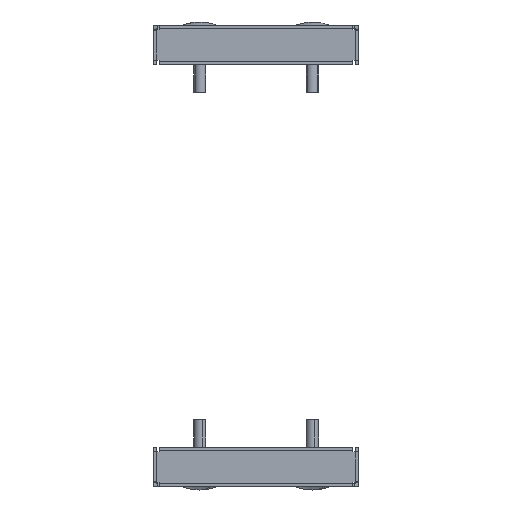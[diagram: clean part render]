
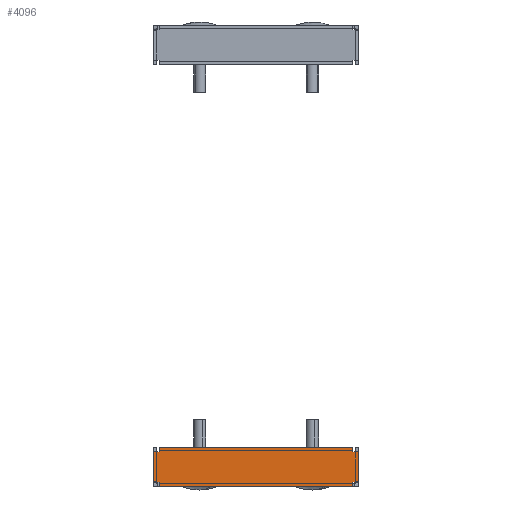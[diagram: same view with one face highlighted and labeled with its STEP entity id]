
A CAD part, left-side view. The second image highlights one B-rep face of the part: STEP entity #4096.
In plain terms, the highlighted planar face has unit normal (-1, 0, 0).
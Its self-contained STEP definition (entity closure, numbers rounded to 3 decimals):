
#35 = DIRECTION ( 'NONE',  ( 0., 0., -1. ) ) ;
#174 = VERTEX_POINT ( 'NONE', #6989 ) ;
#272 = CARTESIAN_POINT ( 'NONE',  ( -499.5, -49.649, 0.758 ) ) ;
#277 = EDGE_CURVE ( 'NONE', #6298, #8418, #7141, .T. ) ;
#292 = EDGE_CURVE ( 'NONE', #2844, #4921, #2566, .T. ) ;
#332 = DIRECTION ( 'NONE',  ( 0., -1., 0. ) ) ;
#370 = CARTESIAN_POINT ( 'NONE',  ( -499.5, 47.9, 0.6 ) ) ;
#377 = CARTESIAN_POINT ( 'NONE',  ( -499.5, -48.599, 0.674 ) ) ;
#811 = DIRECTION ( 'NONE',  ( 0., -1., 0. ) ) ;
#836 = VECTOR ( 'NONE', #6655, 1000. ) ;
#876 = ORIENTED_EDGE ( 'NONE', *, *, #9875, .F. ) ;
#940 = LINE ( 'NONE', #2506, #4409 ) ;
#974 = ORIENTED_EDGE ( 'NONE', *, *, #8722, .F. ) ;
#1060 = CARTESIAN_POINT ( 'NONE',  ( -499.5, -47.3, 15.4 ) ) ;
#1148 = CARTESIAN_POINT ( 'NONE',  ( -499.5, -49.299, 0.734 ) ) ;
#1152 = CARTESIAN_POINT ( 'NONE',  ( -499.5, 47.9, 0.6 ) ) ;
#1369 = LINE ( 'NONE', #1416, #5909 ) ;
#1416 = CARTESIAN_POINT ( 'NONE',  ( -499.5, 0., 15.4 ) ) ;
#1471 = EDGE_CURVE ( 'NONE', #2863, #9821, #7010, .T. ) ;
#1521 = EDGE_CURVE ( 'NONE', #6890, #9547, #940, .T. ) ;
#1587 = LINE ( 'NONE', #4660, #5690 ) ;
#1599 = CARTESIAN_POINT ( 'NONE',  ( -499.5, 47.3, 0.6 ) ) ;
#1698 = VECTOR ( 'NONE', #1764, 1000. ) ;
#1715 = FACE_OUTER_BOUND ( 'NONE', #3470, .T. ) ;
#1764 = DIRECTION ( 'NONE',  ( 0., 0., 1. ) ) ;
#1769 = CARTESIAN_POINT ( 'NONE',  ( -499.5, -47.9, 15.4 ) ) ;
#1871 = ORIENTED_EDGE ( 'NONE', *, *, #8228, .F. ) ;
#1898 = ORIENTED_EDGE ( 'NONE', *, *, #4675, .T. ) ;
#1937 = CARTESIAN_POINT ( 'NONE',  ( -499.5, -50., 0. ) ) ;
#2046 = ORIENTED_EDGE ( 'NONE', *, *, #6057, .T. ) ;
#2138 = VECTOR ( 'NONE', #811, 1000. ) ;
#2249 = CARTESIAN_POINT ( 'NONE',  ( -499.5, 47.3, 15.4 ) ) ;
#2329 = CARTESIAN_POINT ( 'NONE',  ( -499.5, -47.3, 17.5 ) ) ;
#2484 = ORIENTED_EDGE ( 'NONE', *, *, #6380, .T. ) ;
#2497 = CARTESIAN_POINT ( 'NONE',  ( -499.5, 47.3, 0. ) ) ;
#2506 = CARTESIAN_POINT ( 'NONE',  ( -499.5, 47.9, 15.4 ) ) ;
#2508 = VECTOR ( 'NONE', #2914, 1000. ) ;
#2566 = LINE ( 'NONE', #2668, #9885 ) ;
#2668 = CARTESIAN_POINT ( 'NONE',  ( -499.5, -47.9, 0.6 ) ) ;
#2767 = VERTEX_POINT ( 'NONE', #3064 ) ;
#2844 = VERTEX_POINT ( 'NONE', #8851 ) ;
#2863 = VERTEX_POINT ( 'NONE', #9592 ) ;
#2914 = DIRECTION ( 'NONE',  ( 0., 0., -1. ) ) ;
#3020 = VECTOR ( 'NONE', #8836, 1000. ) ;
#3033 = VERTEX_POINT ( 'NONE', #7579 ) ;
#3064 = CARTESIAN_POINT ( 'NONE',  ( -499.5, -47.3, -1.5 ) ) ;
#3119 = DIRECTION ( 'NONE',  ( 1., 0., 0. ) ) ;
#3300 = LINE ( 'NONE', #2497, #7196 ) ;
#3446 = ORIENTED_EDGE ( 'NONE', *, *, #8236, .F. ) ;
#3470 = EDGE_LOOP ( 'NONE', ( #9226, #3642, #1871, #7291, #6518, #6919, #2484, #9433, #6690, #8220, #2046, #876, #7443, #1898, #3446, #974 ) ) ;
#3537 = EDGE_CURVE ( 'NONE', #4561, #3033, #9078, .T. ) ;
#3583 = VECTOR ( 'NONE', #8021, 1000. ) ;
#3635 = CARTESIAN_POINT ( 'NONE',  ( -499.5, 0., 17.5 ) ) ;
#3642 = ORIENTED_EDGE ( 'NONE', *, *, #277, .T. ) ;
#3674 = CARTESIAN_POINT ( 'NONE',  ( -499.5, -47.3, 15.4 ) ) ;
#3735 = LINE ( 'NONE', #5348, #3758 ) ;
#3758 = VECTOR ( 'NONE', #9921, 1000. ) ;
#3787 = LINE ( 'NONE', #9871, #2138 ) ;
#3857 = CARTESIAN_POINT ( 'NONE',  ( -499.5, 47.9, 15.4 ) ) ;
#4063 = CARTESIAN_POINT ( 'NONE',  ( -499.5, 50., 0.777 ) ) ;
#4096 = ADVANCED_FACE ( 'NONE', ( #1715 ), #4780, .F. ) ;
#4347 = VERTEX_POINT ( 'NONE', #9485 ) ;
#4364 = LINE ( 'NONE', #9523, #3020 ) ;
#4400 = LINE ( 'NONE', #1937, #3583 ) ;
#4409 = VECTOR ( 'NONE', #8699, 1000. ) ;
#4561 = VERTEX_POINT ( 'NONE', #1599 ) ;
#4660 = CARTESIAN_POINT ( 'NONE',  ( -499.5, 47.9, 15.4 ) ) ;
#4675 = EDGE_CURVE ( 'NONE', #2844, #174, #9758, .T. ) ;
#4716 = DIRECTION ( 'NONE',  ( 0., 0., 1. ) ) ;
#4780 = PLANE ( 'NONE',  #6165 ) ;
#4864 = CARTESIAN_POINT ( 'NONE',  ( -499.5, -47.9, 0.6 ) ) ;
#4921 = VERTEX_POINT ( 'NONE', #5127 ) ;
#5032 = LINE ( 'NONE', #8896, #9853 ) ;
#5127 = CARTESIAN_POINT ( 'NONE',  ( -499.5, -47.3, 0.6 ) ) ;
#5348 = CARTESIAN_POINT ( 'NONE',  ( -499.5, -47.9, 15.4 ) ) ;
#5389 = CARTESIAN_POINT ( 'NONE',  ( -499.5, 47.3, 17.5 ) ) ;
#5627 = CARTESIAN_POINT ( 'NONE',  ( -499.5, 48.599, 0.674 ) ) ;
#5690 = VECTOR ( 'NONE', #7713, 1000. ) ;
#5881 = EDGE_CURVE ( 'NONE', #8525, #6298, #3735, .T. ) ;
#5909 = VECTOR ( 'NONE', #9008, 1000. ) ;
#6057 = EDGE_CURVE ( 'NONE', #3033, #2767, #3787, .T. ) ;
#6165 = AXIS2_PLACEMENT_3D ( 'NONE', #7844, #3119, #35 ) ;
#6264 = VECTOR ( 'NONE', #7615, 1000. ) ;
#6298 = VERTEX_POINT ( 'NONE', #3674 ) ;
#6364 = VERTEX_POINT ( 'NONE', #5389 ) ;
#6380 = EDGE_CURVE ( 'NONE', #9265, #2863, #7645, .T. ) ;
#6422 = CARTESIAN_POINT ( 'NONE',  ( -499.5, 49.299, 0.734 ) ) ;
#6483 = DIRECTION ( 'NONE',  ( 0., 1., 0. ) ) ;
#6518 = ORIENTED_EDGE ( 'NONE', *, *, #1521, .F. ) ;
#6528 = CARTESIAN_POINT ( 'NONE',  ( -499.5, 49.649, 0.758 ) ) ;
#6655 = DIRECTION ( 'NONE',  ( 0., -1., 0. ) ) ;
#6690 = ORIENTED_EDGE ( 'NONE', *, *, #7602, .T. ) ;
#6743 = CARTESIAN_POINT ( 'NONE',  ( -499.5, 50., 0. ) ) ;
#6890 = VERTEX_POINT ( 'NONE', #3857 ) ;
#6919 = ORIENTED_EDGE ( 'NONE', *, *, #7317, .T. ) ;
#6989 = CARTESIAN_POINT ( 'NONE',  ( -499.5, -50., 0.777 ) ) ;
#7010 = B_SPLINE_CURVE_WITH_KNOTS ( 'NONE', 3,
 ( #4063, #6528, #6422, #5627, #7881, #1152 ),
 .UNSPECIFIED., .F., .F.,
 ( 4, 2, 4 ),
 ( 0.006, 0.007, 0.008 ),
 .UNSPECIFIED. ) ;
#7103 = CARTESIAN_POINT ( 'NONE',  ( -499.5, 50., 15.4 ) ) ;
#7141 = LINE ( 'NONE', #1060, #1698 ) ;
#7196 = VECTOR ( 'NONE', #4716, 1000. ) ;
#7291 = ORIENTED_EDGE ( 'NONE', *, *, #9635, .F. ) ;
#7317 = EDGE_CURVE ( 'NONE', #6890, #9265, #1587, .T. ) ;
#7443 = ORIENTED_EDGE ( 'NONE', *, *, #292, .F. ) ;
#7579 = CARTESIAN_POINT ( 'NONE',  ( -499.5, 47.3, -1.5 ) ) ;
#7602 = EDGE_CURVE ( 'NONE', #9821, #4561, #5032, .T. ) ;
#7615 = DIRECTION ( 'NONE',  ( 0., 0., -1. ) ) ;
#7645 = LINE ( 'NONE', #6743, #2508 ) ;
#7713 = DIRECTION ( 'NONE',  ( 0., 1., 0. ) ) ;
#7844 = CARTESIAN_POINT ( 'NONE',  ( -499.5, 0., 0. ) ) ;
#7881 = CARTESIAN_POINT ( 'NONE',  ( -499.5, 48.249, 0.637 ) ) ;
#8021 = DIRECTION ( 'NONE',  ( 0., 0., -1. ) ) ;
#8220 = ORIENTED_EDGE ( 'NONE', *, *, #3537, .T. ) ;
#8228 = EDGE_CURVE ( 'NONE', #6364, #8418, #8773, .T. ) ;
#8236 = EDGE_CURVE ( 'NONE', #4347, #174, #4400, .T. ) ;
#8418 = VERTEX_POINT ( 'NONE', #2329 ) ;
#8525 = VERTEX_POINT ( 'NONE', #1769 ) ;
#8699 = DIRECTION ( 'NONE',  ( 0., -1., 0. ) ) ;
#8722 = EDGE_CURVE ( 'NONE', #8525, #4347, #1369, .T. ) ;
#8773 = LINE ( 'NONE', #3635, #836 ) ;
#8794 = CARTESIAN_POINT ( 'NONE',  ( -499.5, -48.249, 0.637 ) ) ;
#8836 = DIRECTION ( 'NONE',  ( 0., 0., -1. ) ) ;
#8851 = CARTESIAN_POINT ( 'NONE',  ( -499.5, -47.9, 0.6 ) ) ;
#8896 = CARTESIAN_POINT ( 'NONE',  ( -499.5, 47.9, 0.6 ) ) ;
#9008 = DIRECTION ( 'NONE',  ( 0., -1., 0. ) ) ;
#9078 = LINE ( 'NONE', #9220, #6264 ) ;
#9220 = CARTESIAN_POINT ( 'NONE',  ( -499.5, 47.3, 0.6 ) ) ;
#9226 = ORIENTED_EDGE ( 'NONE', *, *, #5881, .T. ) ;
#9265 = VERTEX_POINT ( 'NONE', #7103 ) ;
#9433 = ORIENTED_EDGE ( 'NONE', *, *, #1471, .T. ) ;
#9485 = CARTESIAN_POINT ( 'NONE',  ( -499.5, -50., 15.4 ) ) ;
#9523 = CARTESIAN_POINT ( 'NONE',  ( -499.5, -47.3, 0. ) ) ;
#9547 = VERTEX_POINT ( 'NONE', #2249 ) ;
#9583 = CARTESIAN_POINT ( 'NONE',  ( -499.5, -50., 0.777 ) ) ;
#9592 = CARTESIAN_POINT ( 'NONE',  ( -499.5, 50., 0.777 ) ) ;
#9635 = EDGE_CURVE ( 'NONE', #9547, #6364, #3300, .T. ) ;
#9758 = B_SPLINE_CURVE_WITH_KNOTS ( 'NONE', 3,
 ( #4864, #8794, #377, #1148, #272, #9583 ),
 .UNSPECIFIED., .F., .F.,
 ( 4, 2, 4 ),
 ( 0.006, 0.007, 0.008 ),
 .UNSPECIFIED. ) ;
#9821 = VERTEX_POINT ( 'NONE', #370 ) ;
#9853 = VECTOR ( 'NONE', #332, 1000. ) ;
#9871 = CARTESIAN_POINT ( 'NONE',  ( -499.5, 0., -1.5 ) ) ;
#9875 = EDGE_CURVE ( 'NONE', #4921, #2767, #4364, .T. ) ;
#9885 = VECTOR ( 'NONE', #6483, 1000. ) ;
#9921 = DIRECTION ( 'NONE',  ( 0., 1., 0. ) ) ;
